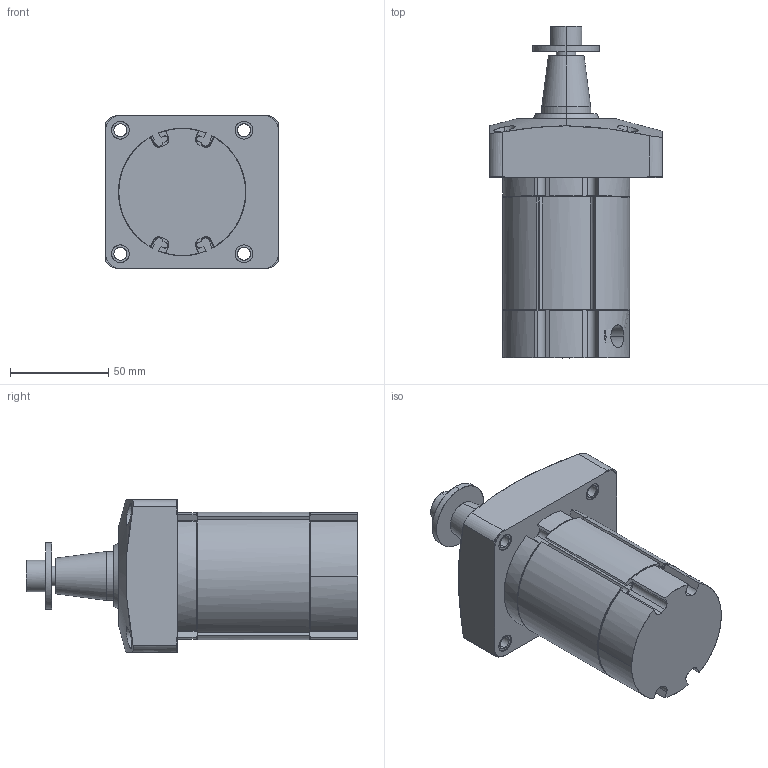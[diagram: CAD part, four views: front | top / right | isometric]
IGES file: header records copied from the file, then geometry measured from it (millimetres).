
Start section: Comment
Global section: file name: jsmh40-20.igs; native system:  By Spatial Corp.; preprocessor: XPlus GENERIC/IGES 3.0; author: Author; organization: Title; date: 20080526.134433; units: millimetre
Bounding box: 88 x 169.2 x 78 mm (x, y, z)
Surface area: 79444.6 mm2 (no closed solid volume)
Topology: 0 solids, 0 shells, 289 faces, 1474 edges, 1468 vertices
Faces by surface type: bspline 289
